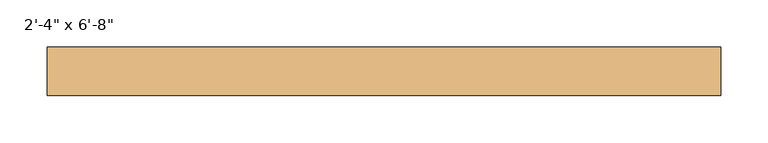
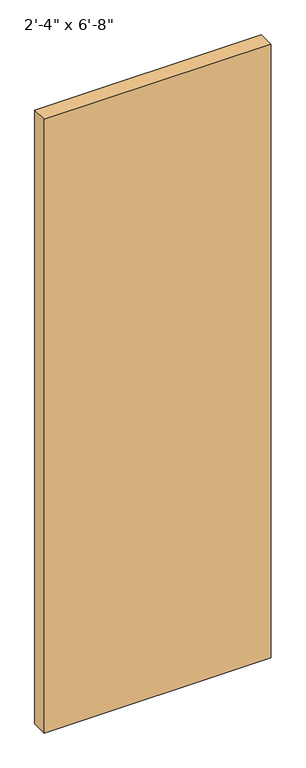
"""IFC4 building model written with IfcOpenShell, lengths in millimetres: door geometry."""

from ifc_helpers import new_model, si_unit, origin, origin_with_axes, place, context, project, spatial, polyline, outline, extrude, source, transform, mapped, element, save


def door_bd139ccc(model_context):
    return source(origin(), model_context, "Body", "SweptSolid", [
        extrude(outline(polyline([(355.6, 31.5515625), (-355.6, 31.5515625), (-355.6, 82.55), (355.6, 82.55), (355.6, 31.5515625)])), origin_with_axes(), (0.0, 0.0, 1.0), 2032.0),
    ])


if __name__ == "__main__":
    model = new_model("IFC4")
    model_context = context("Model", 3, world=origin())
    ifc_project = project(units=[si_unit("LENGTHUNIT", "METRE", prefix="MILLI")], contexts=[model_context])
    site = spatial("IfcSite", under=ifc_project)
    building = spatial("IfcBuilding", under=site)
    placement = place(None, origin())
    door_shape = door_bd139ccc(model_context)
    element("IfcDoor", 1, ObjectType="Planitar - Single Door_Flush Panel : 2'-4\" x 6'-8\"", at=placement, inside=building, context=model_context, shape_type="MappedRepresentation", body=[
        mapped(door_shape, transform((0.0, 0.0, 0.0), x_axis=(1.0, 0.0, 0.0), y_axis=(0.0, 1.0, 0.0), z_axis=(0.0, 0.0, 1.0))),
    ])
    save(model, "model.ifc")
